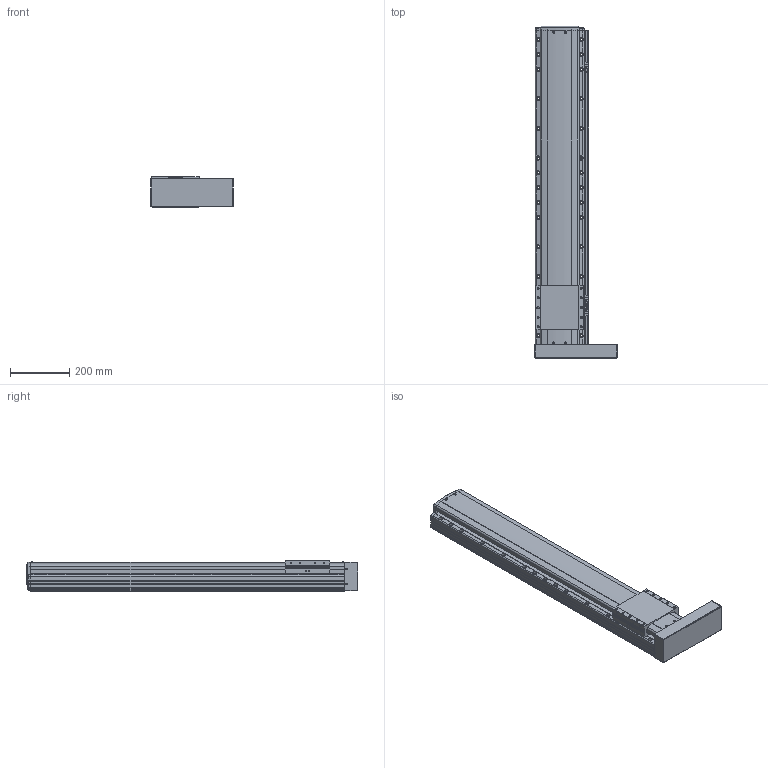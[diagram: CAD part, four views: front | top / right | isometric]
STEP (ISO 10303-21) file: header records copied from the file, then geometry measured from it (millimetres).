
FILE_DESCRIPTION(('STEP AP214'),'1');
FILE_NAME('Z:/Web/3D/PSA165/STP/PSA165-800 (3D)/PSA165ㅁㅁ-800PR+3SR.stp','2014-06-23T11:57:33',(' '),(' '),'Spatial InterOp 3D',' ',' ');
FILE_SCHEMA(('automotive_design'));
Length unit declared in the file: millimetre
Products named in the file (41): 스크루 : Round - M4.0 x 12.0; RRCV-PA160; BASE; 스크루 : Round - M4.0 x 10.0; RN15; Screw 20; SLIDE; FRCV; MTPL; 스크루 : Round - M3.0 x 6.0; M3.0 x 6.0; SRL-16x17-360L; SGD-SAN150; EE-SX674; SBK-SX674-352; BHCS M4.0 x 10.0
Bounding box: 281.93 x 1120.8 x 104 mm (x, y, z)
Volume: 16120137.6 mm3; surface area: 1147762.9 mm2
Topology: 41 solids, 41 shells, 2580 faces, 6917 edges, 4437 vertices
Faces by surface type: plane 1459, cylinder 791, cone 225, sphere 64, bspline 25, torus 16
Entity records: 104713 total; most frequent: CARTESIAN_POINT 18153, DIRECTION 13775, ORIENTED_EDGE 13526, EDGE_CURVE 6763, AXIS2_PLACEMENT_3D 4633, LINE 4509, VECTOR 4509, VERTEX_POINT 4437
